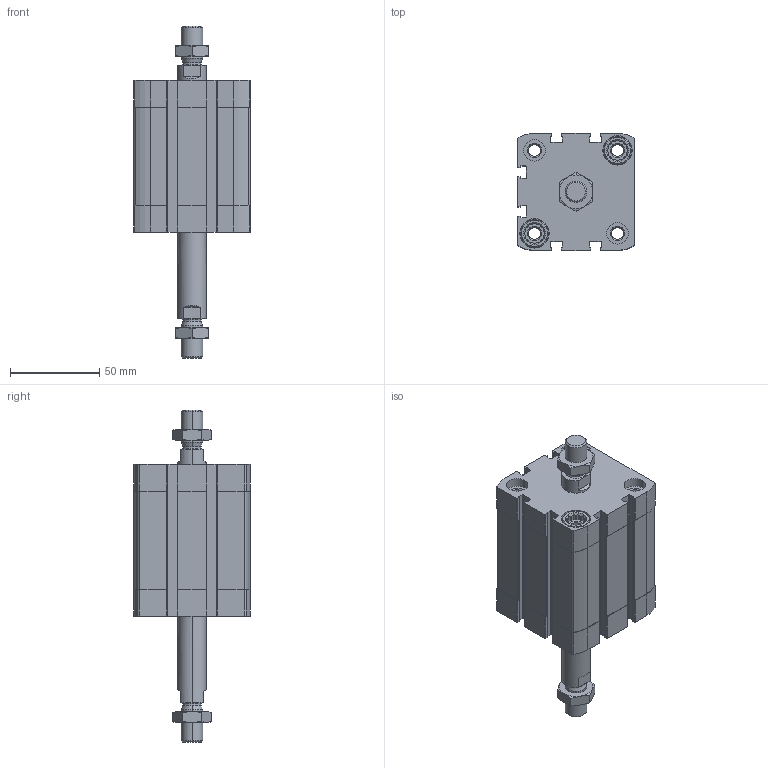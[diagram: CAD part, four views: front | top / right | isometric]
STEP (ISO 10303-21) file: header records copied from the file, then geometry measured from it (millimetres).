
FILE_DESCRIPTION (( 'STEP AP203' ), '1' );
FILE_NAME ('CCN50-40-P.STEP', '2020-06-22T18:57:41', ( '' ), ( '' ), 'SwSTEP 2.0', 'SolidWorks 2019', '' );
FILE_SCHEMA (( 'CONFIG_CONTROL_DESIGN' ));
Length unit declared in the file: millimetre
Products named in the file (1): CCN50-40-P
Bounding box: 65.5 x 65.5 x 186 mm (x, y, z)
Volume: 273276.7 mm3; surface area: 75890.4 mm2
Topology: 4 solids, 4 shells, 528 faces, 1392 edges, 904 vertices
Faces by surface type: plane 240, cylinder 220, cone 60, torus 8
Entity records: 17219 total; most frequent: CARTESIAN_POINT 3821, DIRECTION 2842, ORIENTED_EDGE 2784, EDGE_CURVE 1392, AXIS2_PLACEMENT_3D 1045, VERTEX_POINT 904, LINE 752, VECTOR 752
